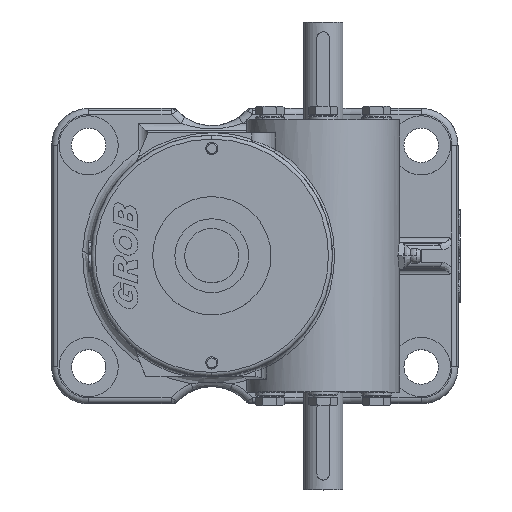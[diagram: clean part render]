
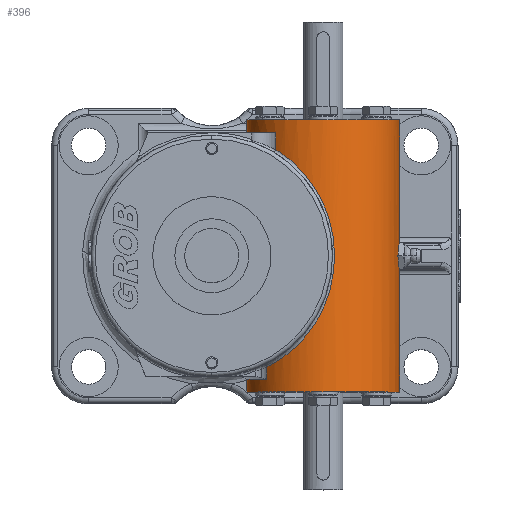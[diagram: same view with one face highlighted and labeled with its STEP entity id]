
A CAD part, top view. The second image highlights one B-rep face of the part: STEP entity #396.
In plain terms, the highlighted cylindrical face has radius 31 mm (diameter 62 mm), a partial arc.
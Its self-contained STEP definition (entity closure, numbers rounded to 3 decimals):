
#396=ADVANCED_FACE('',(#1434),#1435,.T.);
#1434=FACE_OUTER_BOUND('',#2964,.T.);
#1435=CYLINDRICAL_SURFACE('',#2965,31.0);
#2964=EDGE_LOOP('',(#7510,#7511,#7512,#7513,#7514,#7515,#7516,#7517,#7518,#7519,#7520,#7521,#7522,#7523,#7524,#7525,#7526,#7527,#7528));
#2965=AXIS2_PLACEMENT_3D('',#7529,#7530,#7531);
#7510=ORIENTED_EDGE('',*,*,#10863,.T.);
#7511=ORIENTED_EDGE('',*,*,#11576,.T.);
#7512=ORIENTED_EDGE('',*,*,#11569,.T.);
#7513=ORIENTED_EDGE('',*,*,#10928,.T.);
#7514=ORIENTED_EDGE('',*,*,#11568,.T.);
#7515=ORIENTED_EDGE('',*,*,#11563,.T.);
#7516=ORIENTED_EDGE('',*,*,#11587,.T.);
#7517=ORIENTED_EDGE('',*,*,#10882,.T.);
#7518=ORIENTED_EDGE('',*,*,#11250,.T.);
#7519=ORIENTED_EDGE('',*,*,#11247,.T.);
#7520=ORIENTED_EDGE('',*,*,#10878,.T.);
#7521=ORIENTED_EDGE('',*,*,#11593,.F.);
#7522=ORIENTED_EDGE('',*,*,#11624,.F.);
#7523=ORIENTED_EDGE('',*,*,#11625,.F.);
#7524=ORIENTED_EDGE('',*,*,#10823,.F.);
#7525=ORIENTED_EDGE('',*,*,#11626,.F.);
#7526=ORIENTED_EDGE('',*,*,#10867,.T.);
#7527=ORIENTED_EDGE('',*,*,#11259,.T.);
#7528=ORIENTED_EDGE('',*,*,#11256,.T.);
#7529=CARTESIAN_POINT('',(45.22,0.,45.0));
#7530=DIRECTION('',(0.,-1.0,0.));
#7531=DIRECTION('',(1.0,0.,0.));
#10823=EDGE_CURVE('',#12865,#12867,#12868,.T.);
#10863=EDGE_CURVE('',#12946,#12947,#12948,.T.);
#10867=EDGE_CURVE('',#12955,#12953,#12956,.T.);
#10878=EDGE_CURVE('',#12976,#12974,#12977,.T.);
#10882=EDGE_CURVE('',#12984,#12982,#12985,.T.);
#10928=EDGE_CURVE('',#13068,#13065,#13069,.T.);
#11247=EDGE_CURVE('',#13664,#12976,#13665,.T.);
#11250=EDGE_CURVE('',#12982,#13664,#13668,.T.);
#11256=EDGE_CURVE('',#13674,#12946,#13675,.T.);
#11259=EDGE_CURVE('',#12953,#13674,#13678,.T.);
#11563=EDGE_CURVE('',#14132,#14133,#14134,.T.);
#11568=EDGE_CURVE('',#13065,#14132,#14140,.T.);
#11569=EDGE_CURVE('',#14141,#13068,#14142,.T.);
#11576=EDGE_CURVE('',#12947,#14141,#14153,.T.);
#11587=EDGE_CURVE('',#14133,#12984,#14166,.T.);
#11593=EDGE_CURVE('',#14172,#12974,#14173,.T.);
#11624=EDGE_CURVE('',#14221,#14172,#14222,.T.);
#11625=EDGE_CURVE('',#12867,#14221,#14223,.T.);
#11626=EDGE_CURVE('',#12955,#12865,#14224,.T.);
#12865=VERTEX_POINT('',#16335);
#12867=VERTEX_POINT('',#16346);
#12868=LINE('',#16347,#16348);
#12946=VERTEX_POINT('',#16501);
#12947=VERTEX_POINT('',#16502);
#12948=LINE('',#16503,#16504);
#12953=VERTEX_POINT('',#16509);
#12955=VERTEX_POINT('',#16511);
#12956=LINE('',#16512,#16513);
#12974=VERTEX_POINT('',#16539);
#12976=VERTEX_POINT('',#16541);
#12977=LINE('',#16542,#16543);
#12982=VERTEX_POINT('',#16548);
#12984=VERTEX_POINT('',#16550);
#12985=LINE('',#16551,#16552);
#13065=VERTEX_POINT('',#16680);
#13068=VERTEX_POINT('',#16684);
#13069=B_SPLINE_CURVE_WITH_KNOTS('',3,(#16685,#16686,#16687,#16688,#16689,#16690),.UNSPECIFIED.,.F.,.F.,(4,2,4),(1.992,2.026,2.06),.UNSPECIFIED.);
#13664=VERTEX_POINT('',#18220);
#13665=CIRCLE('',#18221,31.0);
#13668=CIRCLE('',#18224,31.0);
#13674=VERTEX_POINT('',#18230);
#13675=CIRCLE('',#18231,31.0);
#13678=CIRCLE('',#18234,31.0);
#14132=VERTEX_POINT('',#19326);
#14133=VERTEX_POINT('',#19327);
#14134=ELLIPSE('',#19328,62.,31.0);
#14140=B_SPLINE_CURVE_WITH_KNOTS('',3,(#19354,#19355,#19356,#19357,#19358,#19359),.UNSPECIFIED.,.F.,.F.,(4,2,4),(1.992,2.026,2.06),.UNSPECIFIED.);
#14141=VERTEX_POINT('',#19360);
#14142=ELLIPSE('',#19361,62.,31.0);
#14153=CIRCLE('',#19410,31.0);
#14166=CIRCLE('',#19477,31.0);
#14172=VERTEX_POINT('',#19485);
#14173=CIRCLE('',#19486,31.0);
#14221=VERTEX_POINT('',#19583);
#14222=LINE('',#19584,#19585);
#14223=B_SPLINE_CURVE_WITH_KNOTS('',3,(#19586,#19587,#19588,#19589,#19590,#19591,#19592,#19593,#19594,#19595,#19596,#19597,#19598,#19599,#19600,#19601),.UNSPECIFIED.,.F.,.F.,(4,1,1,1,1,1,1,1,1,1,1,1,1,4),(0.,0.796,1.591,3.182,4.243,4.773,5.834,6.364,7.955,8.353,9.547,10.342,10.541,11.138),.UNSPECIFIED.);
#14224=CIRCLE('',#19602,31.0);
#16335=CARTESIAN_POINT('',(22.367,-50.0,65.946));
#16346=CARTESIAN_POINT('',(22.367,-45.079,65.946));
#16347=CARTESIAN_POINT('',(22.367,-50.0,65.946));
#16348=VECTOR('',#22078,0.492);
#16501=CARTESIAN_POINT('',(76.22,-55.25,45.0));
#16502=CARTESIAN_POINT('',(76.22,-5.5,45.0));
#16503=CARTESIAN_POINT('',(76.22,0.,45.0));
#16504=VECTOR('',#22134,1.0);
#16509=CARTESIAN_POINT('',(14.22,-55.25,45.0));
#16511=CARTESIAN_POINT('',(14.22,-50.0,45.0));
#16512=CARTESIAN_POINT('',(14.22,0.,45.0));
#16513=VECTOR('',#22144,1.0);
#16539=CARTESIAN_POINT('',(14.22,50.0,45.0));
#16541=CARTESIAN_POINT('',(14.22,55.25,45.0));
#16542=CARTESIAN_POINT('',(14.22,0.,45.0));
#16543=VECTOR('',#22164,1.0);
#16548=CARTESIAN_POINT('',(76.22,55.25,45.));
#16550=CARTESIAN_POINT('',(76.22,5.5,45.0));
#16551=CARTESIAN_POINT('',(76.22,0.,45.0));
#16552=VECTOR('',#22174,1.0);
#16680=CARTESIAN_POINT('',(75.602,0.,51.161));
#16684=CARTESIAN_POINT('',(75.603,-0.341,51.154));
#16685=CARTESIAN_POINT('',(75.603,-0.341,51.154));
#16686=CARTESIAN_POINT('',(75.602,-0.226,51.159));
#16687=CARTESIAN_POINT('',(75.602,-0.113,51.161));
#16688=CARTESIAN_POINT('',(75.602,0.112,51.161));
#16689=CARTESIAN_POINT('',(75.602,0.226,51.159));
#16690=CARTESIAN_POINT('',(75.603,0.341,51.154));
#18220=CARTESIAN_POINT('',(45.22,55.25,76.));
#18221=AXIS2_PLACEMENT_3D('',#22753,#22754,#22755);
#18224=AXIS2_PLACEMENT_3D('',#22762,#22763,#22764);
#18230=CARTESIAN_POINT('',(45.22,-55.25,76.0));
#18231=AXIS2_PLACEMENT_3D('',#22780,#22781,#22782);
#18234=AXIS2_PLACEMENT_3D('',#22789,#22790,#22791);
#19326=CARTESIAN_POINT('',(75.603,0.341,51.154));
#19327=CARTESIAN_POINT('',(76.057,5.5,48.175));
#19328=AXIS2_PLACEMENT_3D('',#23325,#23326,#23327);
#19354=CARTESIAN_POINT('',(75.603,-0.341,51.154));
#19355=CARTESIAN_POINT('',(75.602,-0.226,51.159));
#19356=CARTESIAN_POINT('',(75.602,-0.113,51.161));
#19357=CARTESIAN_POINT('',(75.602,0.112,51.161));
#19358=CARTESIAN_POINT('',(75.602,0.226,51.159));
#19359=CARTESIAN_POINT('',(75.603,0.341,51.154));
#19360=CARTESIAN_POINT('',(76.057,-5.5,48.175));
#19361=AXIS2_PLACEMENT_3D('',#23330,#23331,#23332);
#19410=AXIS2_PLACEMENT_3D('',#23335,#23336,#23337);
#19477=AXIS2_PLACEMENT_3D('',#23350,#23351,#23352);
#19485=CARTESIAN_POINT('',(25.95,50.0,69.283));
#19486=AXIS2_PLACEMENT_3D('',#23364,#23365,#23366);
#19583=CARTESIAN_POINT('',(25.95,43.11,69.283));
#19584=CARTESIAN_POINT('',(25.95,43.11,69.283));
#19585=VECTOR('',#23414,0.689);
#19586=CARTESIAN_POINT('',(22.367,-45.079,65.946));
#19587=CARTESIAN_POINT('',(24.018,-44.262,67.747));
#19588=CARTESIAN_POINT('',(27.694,-42.192,70.886));
#19589=CARTESIAN_POINT('',(35.413,-36.267,74.902));
#19590=CARTESIAN_POINT('',(42.717,-27.277,76.12));
#19591=CARTESIAN_POINT('',(46.994,-17.548,75.978));
#19592=CARTESIAN_POINT('',(49.293,-8.933,75.747));
#19593=CARTESIAN_POINT('',(50.03,-1.873,75.624));
#19594=CARTESIAN_POINT('',(49.494,8.868,75.701));
#19595=CARTESIAN_POINT('',(47.322,17.068,76.026));
#19596=CARTESIAN_POINT('',(42.669,26.647,75.974));
#19597=CARTESIAN_POINT('',(38.098,33.148,75.424));
#19598=CARTESIAN_POINT('',(33.015,38.001,73.602));
#19599=CARTESIAN_POINT('',(29.231,40.991,71.629));
#19600=CARTESIAN_POINT('',(27.321,42.279,70.371));
#19601=CARTESIAN_POINT('',(25.95,43.11,69.283));
#19602=AXIS2_PLACEMENT_3D('',#23415,#23416,#23417);
#22078=DIRECTION('',(0.,1.0,0.));
#22134=DIRECTION('',(0.,1.0,0.));
#22144=DIRECTION('',(0.,-1.0,0.));
#22164=DIRECTION('',(0.,-1.0,0.));
#22174=DIRECTION('',(0.,1.0,0.));
#22753=CARTESIAN_POINT('',(45.22,55.25,45.));
#22754=DIRECTION('',(0.,-1.0,0.));
#22755=DIRECTION('',(0.866,0.,-0.5));
#22762=CARTESIAN_POINT('',(45.22,55.25,45.));
#22763=DIRECTION('',(0.,-1.0,0.));
#22764=DIRECTION('',(0.866,0.,-0.5));
#22780=CARTESIAN_POINT('',(45.22,-55.25,45.0));
#22781=DIRECTION('',(0.,1.0,0.));
#22782=DIRECTION('',(-0.866,0.,-0.5));
#22789=CARTESIAN_POINT('',(45.22,-55.25,45.0));
#22790=DIRECTION('',(0.,1.0,0.));
#22791=DIRECTION('',(-0.866,0.,-0.5));
#23325=CARTESIAN_POINT('',(45.22,11.,45.0));
#23326=DIRECTION('',(0.,0.5,0.866));
#23327=DIRECTION('',(0.,0.866,-0.5));
#23330=CARTESIAN_POINT('',(45.22,-11.0,45.0));
#23331=DIRECTION('',(0.,-0.5,0.866));
#23332=DIRECTION('',(0.,-0.866,-0.5));
#23335=CARTESIAN_POINT('',(45.22,-5.5,45.0));
#23336=DIRECTION('',(0.,-1.0,0.));
#23337=DIRECTION('',(1.0,0.,0.));
#23350=CARTESIAN_POINT('',(45.22,5.5,45.0));
#23351=DIRECTION('',(0.,1.0,0.));
#23352=DIRECTION('',(1.0,0.,0.));
#23364=CARTESIAN_POINT('',(45.22,50.0,45.0));
#23365=DIRECTION('',(0.,-1.0,0.));
#23366=DIRECTION('',(0.866,0.,-0.5));
#23414=DIRECTION('',(0.,1.0,0.));
#23415=CARTESIAN_POINT('',(45.22,-50.0,45.0));
#23416=DIRECTION('',(0.,1.0,0.));
#23417=DIRECTION('',(1.0,0.,0.));
